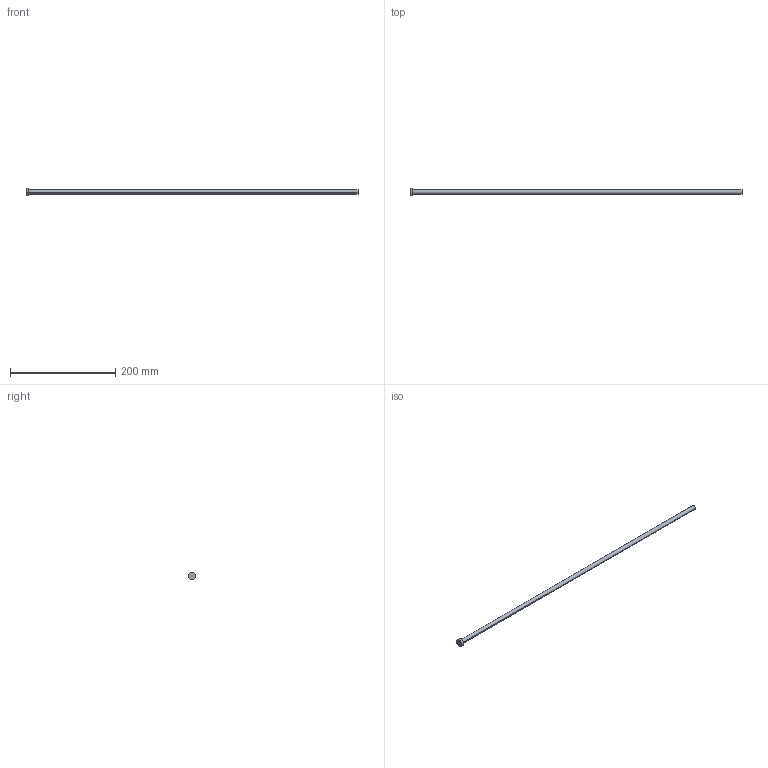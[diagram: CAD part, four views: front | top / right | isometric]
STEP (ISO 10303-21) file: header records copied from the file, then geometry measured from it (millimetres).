
FILE_DESCRIPTION (( 'STEP AP214' ), '1' );
FILE_NAME ('A-8,2x630.STEP', '2020-05-29T15:49:40', ( 'August' ), ( '' ), 'SwSTEP 2.0', 'SolidWorks 2018', '' );
FILE_SCHEMA (( 'AUTOMOTIVE_DESIGN' ));
Length unit declared in the file: millimetre
Products named in the file (1): A-8,2x630
Bounding box: 630 x 14 x 14 mm (x, y, z)
Volume: 33777.5 mm3; surface area: 16623 mm2
Topology: 1 solids, 1 shells, 9 faces, 16 edges, 10 vertices
Faces by surface type: cylinder 4, plane 3, torus 2
Entity records: 260 total; most frequent: DIRECTION 48, CARTESIAN_POINT 36, ORIENTED_EDGE 32, AXIS2_PLACEMENT_3D 22, EDGE_CURVE 16, CIRCLE 12, EDGE_LOOP 10, VERTEX_POINT 10
